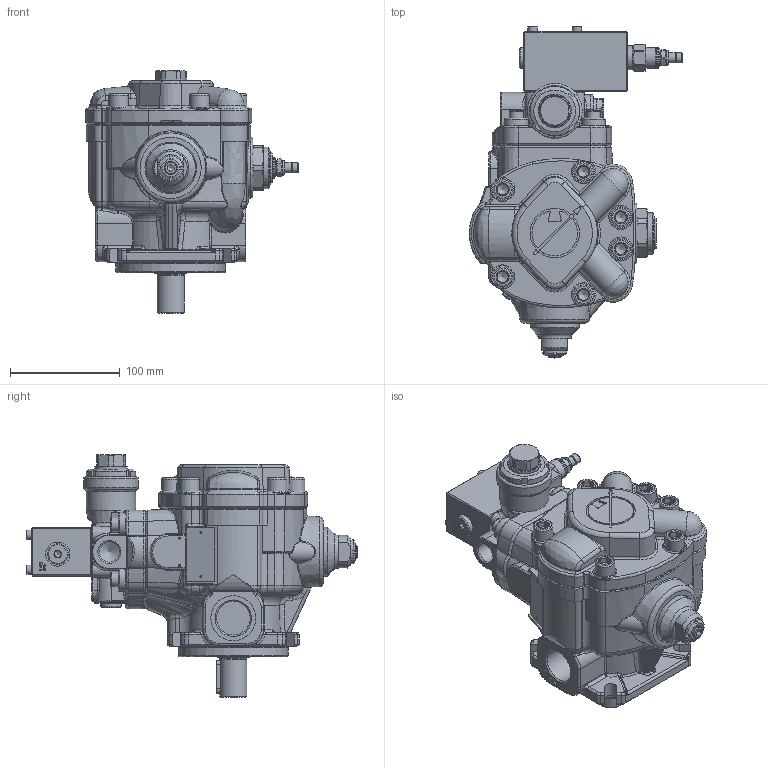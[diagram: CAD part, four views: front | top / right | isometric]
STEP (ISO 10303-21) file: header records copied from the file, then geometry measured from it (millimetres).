
FILE_DESCRIPTION(/* description */ (''),/* implementation_level */ '2;1');
FILE_NAME(/* name */ 'W:\Tecnico\Archivio\Berarma\Dimensioni Pompe\3D Export\Montaggio 3D semplificato\PLP-PHP 1\PHP 1 PCS003.stp',/* time_stamp */ '2018-10-09T15:00:25+02:00',/* author */ ('marcop'),/* organization */ (''),/* preprocessor_version */ 'ST-DEVELOPER v17',/* originating_system */ 'Autodesk Inventor 2018',/* authorisation */ '');
FILE_SCHEMA (('AUTOMOTIVE_DESIGN { 1 0 10303 214 3 1 1 }'));
Products named in the file (1): PLP-PHP 1_Shrinkwrap_1
Bounding box: 194.5 x 302.7 x 221 mm (x, y, z)
Volume: 2582604.9 mm3; surface area: 295849.2 mm2
Topology: 2 solids, 2 shells, 2174 faces, 5629 edges, 3523 vertices
Faces by surface type: plane 806, cylinder 557, bspline 363, torus 232, cone 193, sphere 23
Full cylindrical faces by diameter (mm): 0.9 x3, 1.7 x4, 2.5 x3, 4 x1, 4.134 x2, 5.5 x2, 6 x2, 6.5 x3, 7.2 x1, 7.671 x2, 8 x1, 8.5 x2, 8.566 x2, 9.347 x2, 9.5 x1, 10 x1, 11.445 x1, 12 x4, 13 x4, 13.487 x1, 13.5 x1, 13.767 x2, 14 x3, 14.224 x1, 14.63 x1, 15 x1, 15.5 x1, 16 x2, 17.374 x1, 17.399 x2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
Entity records: 80899 total; most frequent: CARTESIAN_POINT 28082, ORIENTED_EDGE 11164, DIRECTION 9959, EDGE_CURVE 5582, AXIS2_PLACEMENT_3D 3905, VERTEX_POINT 3523, EDGE_LOOP 2306, STYLED_ITEM 2176
